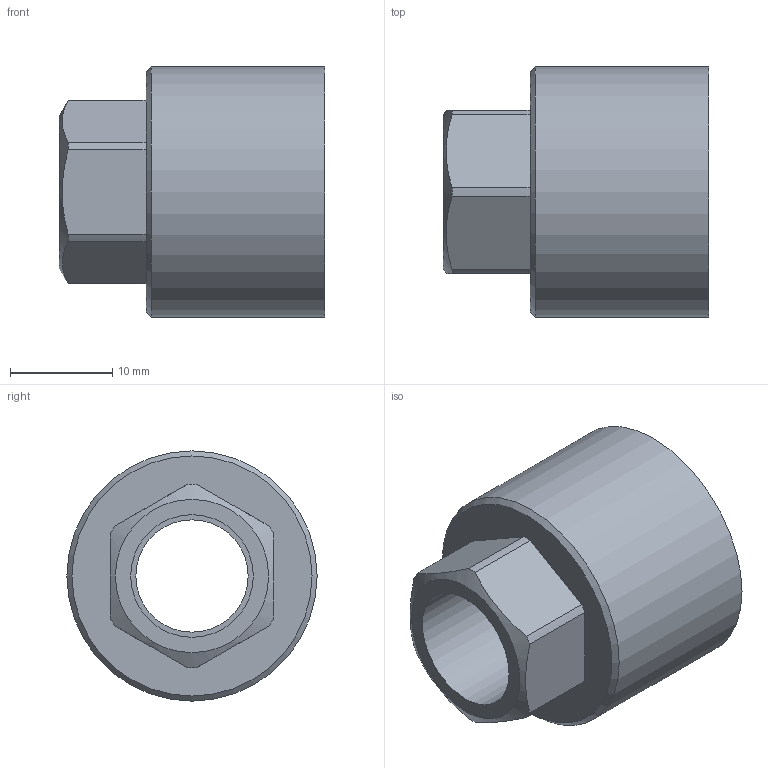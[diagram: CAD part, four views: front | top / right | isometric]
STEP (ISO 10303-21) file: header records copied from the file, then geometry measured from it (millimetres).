
FILE_DESCRIPTION(/* description */ (''),/* implementation_level */ '2;1');
FILE_NAME(/* name */ '\\LG50001\SANHA_Legnica\Engineering\Public\RYSUNKI\SANHA POLSKA\4270G\inventor\14270_12-12(4).stp',/* time_stamp */ '2015-05-19T15:39:20+02:00',/* author */ ('gomulka'),/* organization */ (''),/* preprocessor_version */ 'ST-DEVELOPER v15.6',/* originating_system */ 'Autodesk Inventor 2015',/* authorisation */ '');
FILE_SCHEMA (('AUTOMOTIVE_DESIGN { 1 0 10303 214 3 1 1 }'));
Length unit declared in the file: millimetre
Products named in the file (1): 14270_12-12(4)
Bounding box: 26 x 24.5 x 24.5 mm (x, y, z)
Volume: 4359.6 mm3; surface area: 3923.6 mm2
Topology: 1 solids, 1 shells, 27 faces, 61 edges, 39 vertices
Faces by surface type: plane 11, cylinder 11, cone 4, torus 1
Full cylindrical faces by diameter (mm): 11 x1, 12 x1, 18.631 x1, 21.7 x1, 24.5 x1
Entity records: 724 total; most frequent: CARTESIAN_POINT 128, DIRECTION 126, ORIENTED_EDGE 100, AXIS2_PLACEMENT_3D 54, EDGE_CURVE 50, EDGE_LOOP 42, VERTEX_POINT 38, FACE_OUTER_BOUND 27
